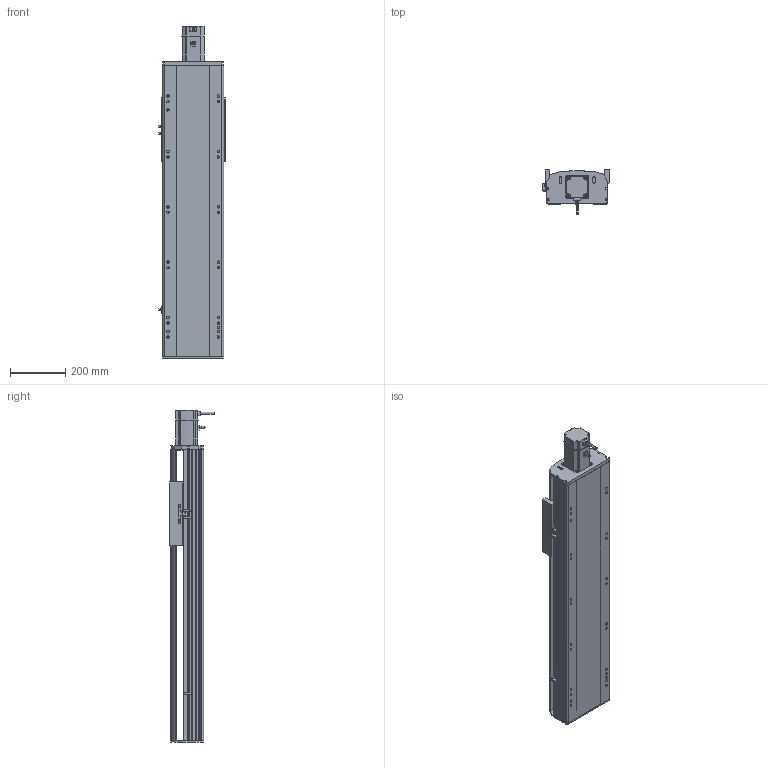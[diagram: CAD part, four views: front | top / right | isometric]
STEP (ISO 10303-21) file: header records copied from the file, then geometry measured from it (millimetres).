
FILE_DESCRIPTION (( 'STEP AP214' ), '1' );
FILE_NAME ('RTH22-XX-650-E-M75-C4.STEP', '2025-10-24T10:44:53', ( 'Microsoft' ), ( 'Microsoft' ), 'SwSTEP 2.0', 'SolidWorks 2018', '' );
FILE_SCHEMA (( 'AUTOMOTIVE_DESIGN' ));
Length unit declared in the file: millimetre
Products named in the file (9): N_RTH22-E-011菁釱^RTH22-XX-XX-E-M75-C4; N_OMRON EE-SX672 传感器^RTH22-XX-XX-E-M75-C4; N_750W萇儂^RTH22-XX-XX-E-M75-C4; RTH22-XX-650-E-M75-C4; N_RTH22-GY-001耜裔^RTH22-XX-XX-E-M75-C4; N_RTH22-E-004-SFS25賑釱^RTH22-XX-XX-E-M75-C4; N_RTH22-E-008萇儂啣^RTH22-XX-XX-E-M75-C4; N_RTH22-GY-013外置感应片^RTH22-XX-XX-E-M75-C4; N_RTH22-E-007奻裔^RTH22-XX-XX-E-M75-C4
Assembly tree (10 placements, depth 2):
  RTH22-XX-650-E-M75-C4
    N_RTH22-E-011菁釱^RTH22-XX-XX-E-M75-C4
    N_RTH22-GY-001耜裔^RTH22-XX-XX-E-M75-C4
    N_RTH22-E-008萇儂啣^RTH22-XX-XX-E-M75-C4
    N_RTH22-E-007奻裔^RTH22-XX-XX-E-M75-C4
    N_RTH22-GY-013外置感应片^RTH22-XX-XX-E-M75-C4
    N_RTH22-E-004-SFS25賑釱^RTH22-XX-XX-E-M75-C4
    N_750W萇儂^RTH22-XX-XX-E-M75-C4
    N_OMRON EE-SX672 传感器^RTH22-XX-XX-E-M75-C4  x3
Bounding box: 238.5 x 160.7 x 1199 mm (x, y, z)
Volume: 15329832.8 mm3; surface area: 1606538.3 mm2
Topology: 10 solids, 10 shells, 1523 faces, 4174 edges, 2699 vertices
Faces by surface type: plane 754, cylinder 436, bspline 279, cone 54
Entity records: 37889 total; most frequent: CARTESIAN_POINT 11913, ORIENTED_EDGE 5332, DIRECTION 4992, EDGE_CURVE 2666, VERTEX_POINT 1735, AXIS2_PLACEMENT_3D 1674, VECTOR 1644, LINE 1644
